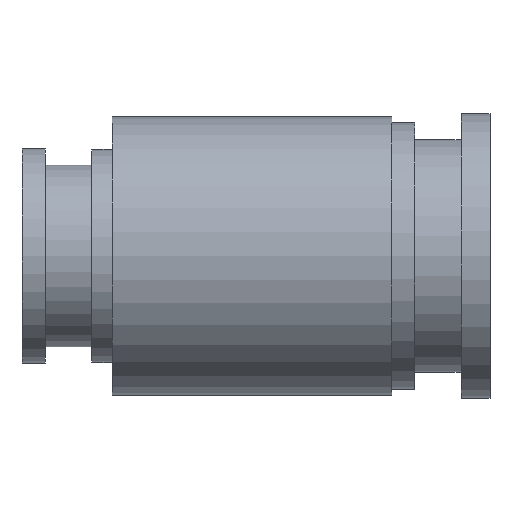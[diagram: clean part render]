
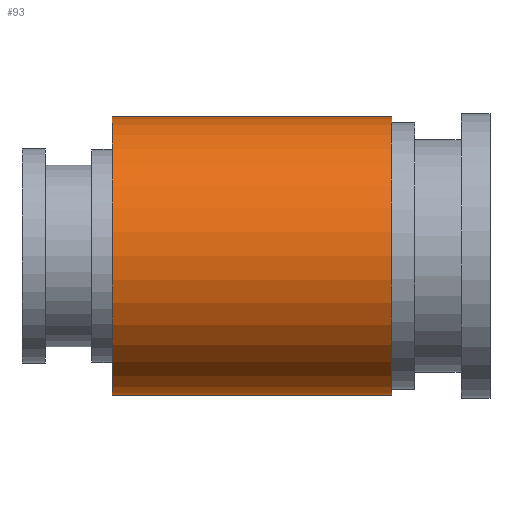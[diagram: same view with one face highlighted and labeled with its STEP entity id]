
A CAD part, top view. The second image highlights one B-rep face of the part: STEP entity #93.
In plain terms, the highlighted cylindrical face has radius 12 mm (diameter 24 mm), a partial arc.
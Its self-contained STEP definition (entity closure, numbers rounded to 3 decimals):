
#93 = ADVANCED_FACE( '', ( #144 ), #145, .T. );
#144 = FACE_OUTER_BOUND( '', #208, .T. );
#145 = CYLINDRICAL_SURFACE( '', #209, 12. );
#208 = EDGE_LOOP( '', ( #356, #357, #358, #359 ) );
#209 = AXIS2_PLACEMENT_3D( '', #360, #361, #362 );
#356 = ORIENTED_EDGE( '', *, *, #440, .T. );
#357 = ORIENTED_EDGE( '', *, *, #469, .F. );
#358 = ORIENTED_EDGE( '', *, *, #442, .T. );
#359 = ORIENTED_EDGE( '', *, *, #468, .T. );
#360 = CARTESIAN_POINT( '', ( 19.85, 0., 0. ) );
#361 = DIRECTION( '', ( 1., 0., 0. ) );
#362 = DIRECTION( '', ( 0., 1., 0. ) );
#440 = EDGE_CURVE( '', #510, #511, #512, .T. );
#442 = EDGE_CURVE( '', #515, #513, #516, .T. );
#468 = EDGE_CURVE( '', #513, #510, #558, .T. );
#469 = EDGE_CURVE( '', #515, #511, #559, .T. );
#510 = VERTEX_POINT( '', #608 );
#511 = VERTEX_POINT( '', #609 );
#512 = LINE( '', #610, #611 );
#513 = VERTEX_POINT( '', #612 );
#515 = VERTEX_POINT( '', #614 );
#516 = LINE( '', #615, #616 );
#558 = CIRCLE( '', #666, 12. );
#559 = CIRCLE( '', #667, 12. );
#608 = CARTESIAN_POINT( '', ( 31.9, 12., 0. ) );
#609 = CARTESIAN_POINT( '', ( 7.8, 12., 0. ) );
#610 = CARTESIAN_POINT( '', ( 19.85, 12., 0. ) );
#611 = VECTOR( '', #708, 1. );
#612 = CARTESIAN_POINT( '', ( 31.9, -12., 0. ) );
#614 = CARTESIAN_POINT( '', ( 7.8, -12., 0. ) );
#615 = CARTESIAN_POINT( '', ( 19.85, -12., 0. ) );
#616 = VECTOR( '', #712, 1. );
#666 = AXIS2_PLACEMENT_3D( '', #772, #773, #774 );
#667 = AXIS2_PLACEMENT_3D( '', #775, #776, #777 );
#708 = DIRECTION( '', ( -1., 0., 0. ) );
#712 = DIRECTION( '', ( 1., 0., 0. ) );
#772 = CARTESIAN_POINT( '', ( 31.9, 0., 0. ) );
#773 = DIRECTION( '', ( -1., 0., 0. ) );
#774 = DIRECTION( '', ( 0., 1., 0. ) );
#775 = CARTESIAN_POINT( '', ( 7.8, 0., 0. ) );
#776 = DIRECTION( '', ( -1., 0., 0. ) );
#777 = DIRECTION( '', ( 0., 1., 0. ) );
